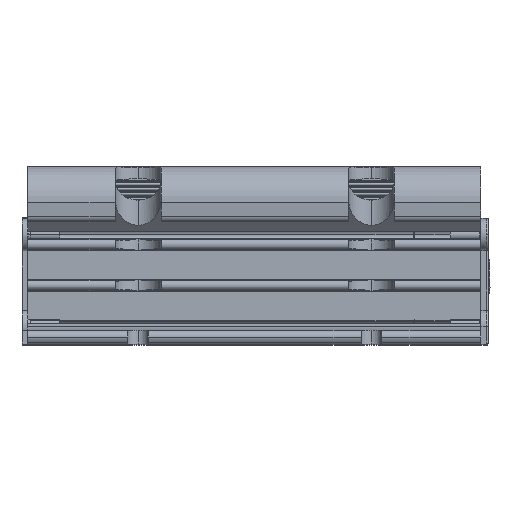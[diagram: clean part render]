
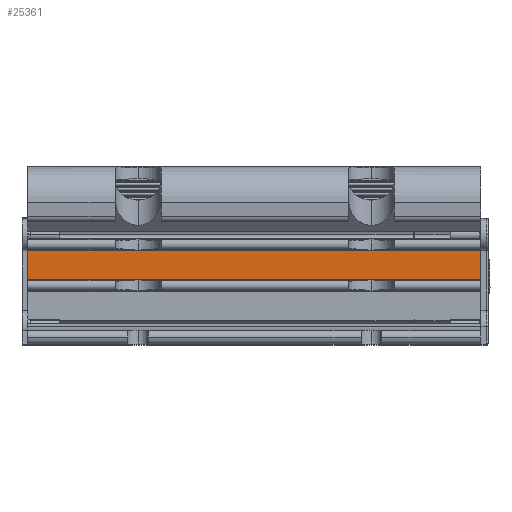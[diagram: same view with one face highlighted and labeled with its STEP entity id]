
A CAD part, top view. The second image highlights one B-rep face of the part: STEP entity #25361.
In plain terms, the highlighted planar face has unit normal (0, 0, 1).
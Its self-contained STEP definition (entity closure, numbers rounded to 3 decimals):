
#48 = ORIENTED_EDGE ( 'NONE', *, *, #55257, .F. ) ;
#321 = VECTOR ( 'NONE', #71834, 1000. ) ;
#6129 = DIRECTION ( 'NONE',  ( 1., 0., 0. ) ) ;
#12075 = EDGE_CURVE ( 'NONE', #77361, #127245, #85592, .T. ) ;
#15392 = CARTESIAN_POINT ( 'NONE',  ( 49.136, 12.5, 63.5 ) ) ;
#16910 = CARTESIAN_POINT ( 'NONE',  ( -82.01, 12.5, 63.5 ) ) ;
#18074 = ORIENTED_EDGE ( 'NONE', *, *, #12075, .T. ) ;
#19617 = DIRECTION ( 'NONE',  ( 0., -1., 0. ) ) ;
#20682 = CARTESIAN_POINT ( 'NONE',  ( 49.136, 17.51, 63.5 ) ) ;
#23013 = CARTESIAN_POINT ( 'NONE',  ( 49.136, 6.3, 63.5 ) ) ;
#23386 = VECTOR ( 'NONE', #6129, 1000. ) ;
#23959 = EDGE_CURVE ( 'NONE', #97443, #77361, #96470, .T. ) ;
#25361 = ADVANCED_FACE ( 'NONE', ( #102721 ), #101774, .F. ) ;
#25695 = ORIENTED_EDGE ( 'NONE', *, *, #57723, .F. ) ;
#27317 = LINE ( 'NONE', #90821, #41746 ) ;
#27776 = ORIENTED_EDGE ( 'NONE', *, *, #23959, .T. ) ;
#40868 = DIRECTION ( 'NONE',  ( -1., 0., 0. ) ) ;
#40898 = CARTESIAN_POINT ( 'NONE',  ( -49.564, 17.51, 63.5 ) ) ;
#41746 = VECTOR ( 'NONE', #19617, 1000. ) ;
#51172 = DIRECTION ( 'NONE',  ( 0., 0., -1. ) ) ;
#55257 = EDGE_CURVE ( 'NONE', #97443, #67835, #116334, .T. ) ;
#57723 = EDGE_CURVE ( 'NONE', #67835, #127245, #27317, .T. ) ;
#60421 = CARTESIAN_POINT ( 'NONE',  ( -49.564, 6.3, 63.5 ) ) ;
#67835 = VERTEX_POINT ( 'NONE', #15392 ) ;
#70833 = EDGE_LOOP ( 'NONE', ( #27776, #18074, #25695, #48 ) ) ;
#71834 = DIRECTION ( 'NONE',  ( 0., -1., 0. ) ) ;
#77361 = VERTEX_POINT ( 'NONE', #60421 ) ;
#78095 = CARTESIAN_POINT ( 'NONE',  ( -82.01, 6.3, 63.5 ) ) ;
#85592 = LINE ( 'NONE', #78095, #92039 ) ;
#89203 = DIRECTION ( 'NONE',  ( 1., 0., 0. ) ) ;
#90821 = CARTESIAN_POINT ( 'NONE',  ( 49.136, 17.51, 63.5 ) ) ;
#92039 = VECTOR ( 'NONE', #89203, 1000. ) ;
#96470 = LINE ( 'NONE', #40898, #321 ) ;
#97443 = VERTEX_POINT ( 'NONE', #114254 ) ;
#101774 = PLANE ( 'NONE',  #127633 ) ;
#102721 = FACE_OUTER_BOUND ( 'NONE', #70833, .T. ) ;
#114254 = CARTESIAN_POINT ( 'NONE',  ( -49.564, 12.5, 63.5 ) ) ;
#116334 = LINE ( 'NONE', #16910, #23386 ) ;
#127245 = VERTEX_POINT ( 'NONE', #23013 ) ;
#127633 = AXIS2_PLACEMENT_3D ( 'NONE', #20682, #51172, #40868 ) ;
